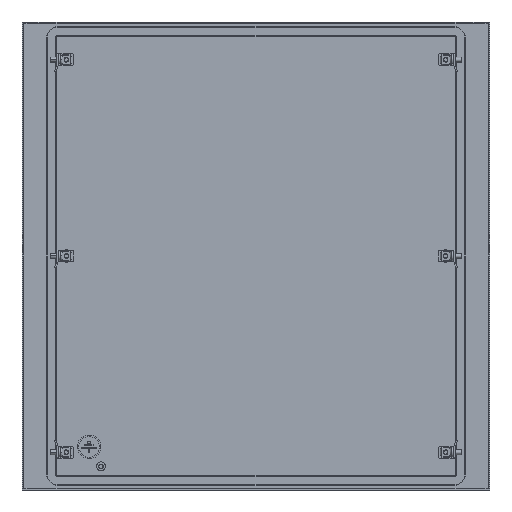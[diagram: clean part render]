
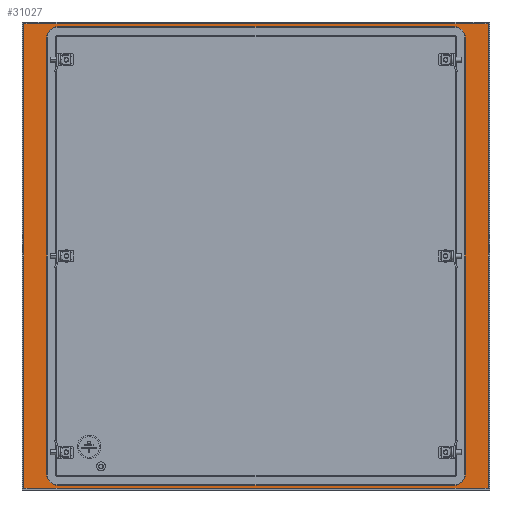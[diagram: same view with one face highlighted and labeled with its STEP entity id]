
A CAD part, left-side view. The second image highlights one B-rep face of the part: STEP entity #31027.
In plain terms, the highlighted planar face has unit normal (-1, 0, 0).
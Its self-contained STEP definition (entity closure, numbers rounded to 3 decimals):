
#30 = VERTEX_POINT ( 'NONE', #13062 ) ;
#177 = VECTOR ( 'NONE', #32166, 1000. ) ;
#377 = CARTESIAN_POINT ( 'NONE',  ( -2., 266.5, 278. ) ) ;
#418 = LINE ( 'NONE', #14281, #15572 ) ;
#508 = EDGE_CURVE ( 'NONE', #33321, #30, #24607, .T. ) ;
#647 = CARTESIAN_POINT ( 'NONE',  ( -2., 295.5, 296. ) ) ;
#782 = FACE_OUTER_BOUND ( 'NONE', #16691, .T. ) ;
#1179 = CARTESIAN_POINT ( 'NONE',  ( -2., 295.5, -296. ) ) ;
#1272 = EDGE_CURVE ( 'NONE', #27127, #33321, #15350, .T. ) ;
#1303 = CARTESIAN_POINT ( 'NONE',  ( -2., 295.5, 0. ) ) ;
#1397 = LINE ( 'NONE', #26531, #13848 ) ;
#2221 = CARTESIAN_POINT ( 'NONE',  ( -2., -252.5, -292. ) ) ;
#2296 = CARTESIAN_POINT ( 'NONE',  ( -2., -252.5, -278. ) ) ;
#2428 = EDGE_CURVE ( 'NONE', #4749, #18395, #418, .T. ) ;
#3111 = ORIENTED_EDGE ( 'NONE', *, *, #1272, .T. ) ;
#3112 = CIRCLE ( 'NONE', #34378, 14. ) ;
#3322 = CARTESIAN_POINT ( 'NONE',  ( -2., 266.5, -278. ) ) ;
#4068 = VERTEX_POINT ( 'NONE', #377 ) ;
#4572 = EDGE_CURVE ( 'NONE', #26550, #33516, #29763, .T. ) ;
#4749 = VERTEX_POINT ( 'NONE', #36338 ) ;
#4873 = DIRECTION ( 'NONE',  ( 0., 0., -1. ) ) ;
#5101 = CARTESIAN_POINT ( 'NONE',  ( -2., 252.5, 292. ) ) ;
#5637 = DIRECTION ( 'NONE',  ( -1., 0., 0. ) ) ;
#5886 = VECTOR ( 'NONE', #6696, 1000. ) ;
#5965 = LINE ( 'NONE', #20719, #5886 ) ;
#6262 = CARTESIAN_POINT ( 'NONE',  ( -2., -295.5, 296. ) ) ;
#6603 = AXIS2_PLACEMENT_3D ( 'NONE', #30744, #33166, #27428 ) ;
#6696 = DIRECTION ( 'NONE',  ( 0., 0., 1. ) ) ;
#7117 = ORIENTED_EDGE ( 'NONE', *, *, #2428, .F. ) ;
#7327 = VERTEX_POINT ( 'NONE', #25821 ) ;
#7382 = AXIS2_PLACEMENT_3D ( 'NONE', #2296, #11002, #24834 ) ;
#7773 = VECTOR ( 'NONE', #7802, 1000. ) ;
#7781 = LINE ( 'NONE', #2221, #32351 ) ;
#7802 = DIRECTION ( 'NONE',  ( 0., -1., 0. ) ) ;
#8110 = EDGE_CURVE ( 'NONE', #30, #11632, #5965, .T. ) ;
#8794 = CIRCLE ( 'NONE', #18202, 14. ) ;
#8881 = ORIENTED_EDGE ( 'NONE', *, *, #508, .T. ) ;
#8992 = CARTESIAN_POINT ( 'NONE',  ( -2., 252.5, -292. ) ) ;
#9923 = DIRECTION ( 'NONE',  ( 0., 1., 0. ) ) ;
#10066 = VECTOR ( 'NONE', #32074, 1000. ) ;
#10080 = ORIENTED_EDGE ( 'NONE', *, *, #27697, .T. ) ;
#10566 = EDGE_CURVE ( 'NONE', #12367, #7327, #8794, .T. ) ;
#11002 = DIRECTION ( 'NONE',  ( 1., 0., 0. ) ) ;
#11632 = VERTEX_POINT ( 'NONE', #6262 ) ;
#12146 = CARTESIAN_POINT ( 'NONE',  ( -2., -266.5, 0. ) ) ;
#12367 = VERTEX_POINT ( 'NONE', #8992 ) ;
#13062 = CARTESIAN_POINT ( 'NONE',  ( -2., -295.5, -296. ) ) ;
#13848 = VECTOR ( 'NONE', #9923, 1000. ) ;
#14281 = CARTESIAN_POINT ( 'NONE',  ( -2., -252.5, 292. ) ) ;
#14511 = DIRECTION ( 'NONE',  ( 0., -1., 0. ) ) ;
#14629 = CARTESIAN_POINT ( 'NONE',  ( -2., -266.5, 278. ) ) ;
#15012 = DIRECTION ( 'NONE',  ( 0., 0., 1. ) ) ;
#15192 = PLANE ( 'NONE',  #34477 ) ;
#15350 = LINE ( 'NONE', #1303, #177 ) ;
#15572 = VECTOR ( 'NONE', #17212, 1000. ) ;
#15626 = LINE ( 'NONE', #12146, #10066 ) ;
#16691 = EDGE_LOOP ( 'NONE', ( #32883, #27063, #3111, #8881 ) ) ;
#17212 = DIRECTION ( 'NONE',  ( 0., 1., 0. ) ) ;
#17445 = CARTESIAN_POINT ( 'NONE',  ( -2., -252.5, 278. ) ) ;
#17619 = EDGE_CURVE ( 'NONE', #33516, #12367, #7781, .T. ) ;
#18202 = AXIS2_PLACEMENT_3D ( 'NONE', #18371, #18726, #4873 ) ;
#18371 = CARTESIAN_POINT ( 'NONE',  ( -2., 252.5, -278. ) ) ;
#18395 = VERTEX_POINT ( 'NONE', #5101 ) ;
#18726 = DIRECTION ( 'NONE',  ( 1., 0., 0. ) ) ;
#19846 = EDGE_CURVE ( 'NONE', #7327, #4068, #31773, .T. ) ;
#20719 = CARTESIAN_POINT ( 'NONE',  ( -2., -295.5, 0. ) ) ;
#20834 = ORIENTED_EDGE ( 'NONE', *, *, #4572, .T. ) ;
#21081 = DIRECTION ( 'NONE',  ( 1., 0., 0. ) ) ;
#21518 = EDGE_LOOP ( 'NONE', ( #21575, #10080, #20834, #35629, #34923, #30173, #22951, #7117 ) ) ;
#21575 = ORIENTED_EDGE ( 'NONE', *, *, #28026, .F. ) ;
#22359 = VERTEX_POINT ( 'NONE', #14629 ) ;
#22951 = ORIENTED_EDGE ( 'NONE', *, *, #24136, .F. ) ;
#24136 = EDGE_CURVE ( 'NONE', #18395, #4068, #26082, .T. ) ;
#24607 = LINE ( 'NONE', #33109, #7773 ) ;
#24834 = DIRECTION ( 'NONE',  ( 0., -1., 0. ) ) ;
#25716 = VECTOR ( 'NONE', #31230, 1000. ) ;
#25821 = CARTESIAN_POINT ( 'NONE',  ( -2., 266.5, -278. ) ) ;
#26082 = CIRCLE ( 'NONE', #6603, 14. ) ;
#26531 = CARTESIAN_POINT ( 'NONE',  ( -2., 0., 296. ) ) ;
#26550 = VERTEX_POINT ( 'NONE', #31360 ) ;
#27063 = ORIENTED_EDGE ( 'NONE', *, *, #27757, .T. ) ;
#27127 = VERTEX_POINT ( 'NONE', #647 ) ;
#27428 = DIRECTION ( 'NONE',  ( 0., 0., 1. ) ) ;
#27697 = EDGE_CURVE ( 'NONE', #22359, #26550, #15626, .T. ) ;
#27757 = EDGE_CURVE ( 'NONE', #11632, #27127, #1397, .T. ) ;
#28026 = EDGE_CURVE ( 'NONE', #22359, #4749, #3112, .T. ) ;
#29763 = CIRCLE ( 'NONE', #7382, 14. ) ;
#30173 = ORIENTED_EDGE ( 'NONE', *, *, #19846, .T. ) ;
#30744 = CARTESIAN_POINT ( 'NONE',  ( -2., 252.5, 278. ) ) ;
#31027 = ADVANCED_FACE ( 'NONE', ( #782, #31814 ), #15192, .F. ) ;
#31230 = DIRECTION ( 'NONE',  ( 0., 0., 1. ) ) ;
#31360 = CARTESIAN_POINT ( 'NONE',  ( -2., -266.5, -278. ) ) ;
#31773 = LINE ( 'NONE', #3322, #25716 ) ;
#31814 = FACE_BOUND ( 'NONE', #21518, .T. ) ;
#32074 = DIRECTION ( 'NONE',  ( 0., 0., -1. ) ) ;
#32166 = DIRECTION ( 'NONE',  ( 0., 0., -1. ) ) ;
#32351 = VECTOR ( 'NONE', #32727, 1000. ) ;
#32727 = DIRECTION ( 'NONE',  ( 0., 1., 0. ) ) ;
#32883 = ORIENTED_EDGE ( 'NONE', *, *, #8110, .T. ) ;
#33109 = CARTESIAN_POINT ( 'NONE',  ( -2., 0., -296. ) ) ;
#33166 = DIRECTION ( 'NONE',  ( -1., 0., 0. ) ) ;
#33321 = VERTEX_POINT ( 'NONE', #1179 ) ;
#33516 = VERTEX_POINT ( 'NONE', #35165 ) ;
#34378 = AXIS2_PLACEMENT_3D ( 'NONE', #17445, #5637, #14511 ) ;
#34477 = AXIS2_PLACEMENT_3D ( 'NONE', #34952, #21081, #15012 ) ;
#34923 = ORIENTED_EDGE ( 'NONE', *, *, #10566, .T. ) ;
#34952 = CARTESIAN_POINT ( 'NONE',  ( -2., 0., 0. ) ) ;
#35165 = CARTESIAN_POINT ( 'NONE',  ( -2., -252.5, -292. ) ) ;
#35629 = ORIENTED_EDGE ( 'NONE', *, *, #17619, .T. ) ;
#36338 = CARTESIAN_POINT ( 'NONE',  ( -2., -252.5, 292. ) ) ;
